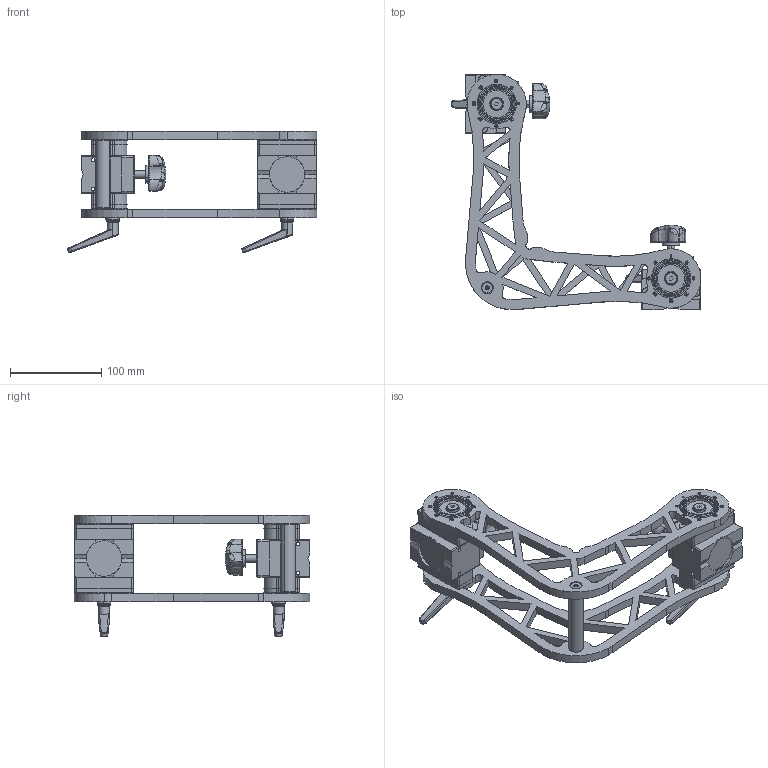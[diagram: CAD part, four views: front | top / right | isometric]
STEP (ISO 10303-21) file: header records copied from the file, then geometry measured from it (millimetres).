
FILE_DESCRIPTION (( 'STEP AP203' ), '1' );
FILE_NAME ('8000453_p.STEP', '2013-07-02T21:19:07', ( '' ), ( '' ), 'SwSTEP 2.0', 'SolidWorks 2010', '' );
FILE_SCHEMA (( 'CONFIG_CONTROL_DESIGN' ));
Length unit declared in the file: millimetre
Products named in the file (1): 8000453_p
Bounding box: 273.24 x 257.5 x 133.23 mm (x, y, z)
Surface area: 197048 mm2 (no closed solid volume)
Topology: 0 solids, 213 shells, 1551 faces, 10360 edges, 8918 vertices
Faces by surface type: plane 1025, cylinder 266, bspline 140, cone 86, torus 30, sphere 4
Entity records: 111121 total; most frequent: CARTESIAN_POINT 36483, DIRECTION 13514, ORIENTED_EDGE 12831, EDGE_CURVE 10357, VERTEX_POINT 8918, LINE 8848, VECTOR 8848, AXIS2_PLACEMENT_3D 2333
